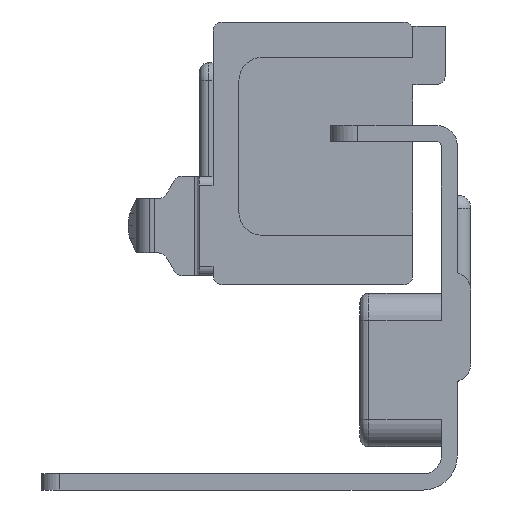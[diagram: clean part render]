
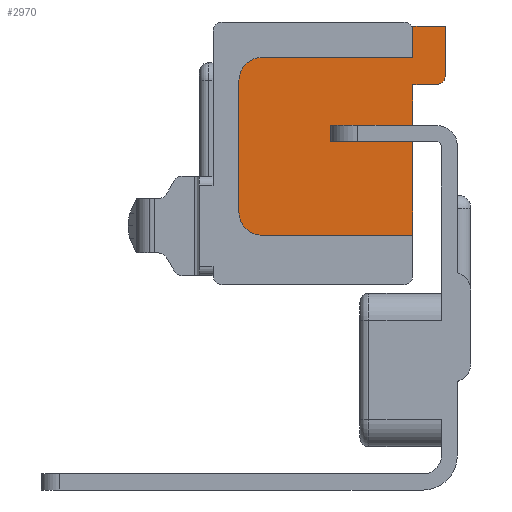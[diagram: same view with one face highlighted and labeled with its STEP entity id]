
A CAD part, left-side view. The second image highlights one B-rep face of the part: STEP entity #2970.
In plain terms, the highlighted planar face has unit normal (-1, 0, 0).
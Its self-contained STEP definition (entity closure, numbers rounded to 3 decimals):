
#12 = DIRECTION ( 'NONE',  ( 0., 0., 1. ) ) ;
#17 = ORIENTED_EDGE ( 'NONE', *, *, #1664, .F. ) ;
#91 = DIRECTION ( 'NONE',  ( -1., 0., 0. ) ) ;
#128 = CARTESIAN_POINT ( 'NONE',  ( -14.3, 4.9, 73.625 ) ) ;
#229 = ORIENTED_EDGE ( 'NONE', *, *, #7047, .F. ) ;
#242 = EDGE_CURVE ( 'NONE', #5560, #2757, #2921, .T. ) ;
#281 = EDGE_CURVE ( 'NONE', #6184, #5635, #4037, .T. ) ;
#302 = LINE ( 'NONE', #128, #3077 ) ;
#326 = VECTOR ( 'NONE', #2813, 1000. ) ;
#347 = CARTESIAN_POINT ( 'NONE',  ( -14.3, 12.15, 75.29 ) ) ;
#492 = ORIENTED_EDGE ( 'NONE', *, *, #4300, .T. ) ;
#541 = VERTEX_POINT ( 'NONE', #1151 ) ;
#565 = EDGE_CURVE ( 'NONE', #1248, #1530, #665, .T. ) ;
#665 = LINE ( 'NONE', #1143, #6144 ) ;
#751 = LINE ( 'NONE', #3242, #6560 ) ;
#812 = LINE ( 'NONE', #4637, #2116 ) ;
#816 = AXIS2_PLACEMENT_3D ( 'NONE', #3397, #91, #3952 ) ;
#849 = LINE ( 'NONE', #1984, #3772 ) ;
#856 = DIRECTION ( 'NONE',  ( 0., 0., 1. ) ) ;
#895 = CARTESIAN_POINT ( 'NONE',  ( -14.3, 4.9, 84.555 ) ) ;
#924 = LINE ( 'NONE', #5928, #6567 ) ;
#951 = CARTESIAN_POINT ( 'NONE',  ( -14.3, 4.9, 88.025 ) ) ;
#1143 = CARTESIAN_POINT ( 'NONE',  ( -14.3, 24.13, 67.425 ) ) ;
#1151 = CARTESIAN_POINT ( 'NONE',  ( -14.3, 4.9, 75.29 ) ) ;
#1161 = DIRECTION ( 'NONE',  ( 0., 0., -1. ) ) ;
#1222 = CARTESIAN_POINT ( 'NONE',  ( -14.3, 1.33, 88.025 ) ) ;
#1248 = VERTEX_POINT ( 'NONE', #2749 ) ;
#1413 = VERTEX_POINT ( 'NONE', #2110 ) ;
#1424 = AXIS2_PLACEMENT_3D ( 'NONE', #2690, #6496, #3237 ) ;
#1460 = CIRCLE ( 'NONE', #5729, 2.5 ) ;
#1495 = EDGE_CURVE ( 'NONE', #6091, #5086, #812, .T. ) ;
#1530 = VERTEX_POINT ( 'NONE', #6171 ) ;
#1645 = DIRECTION ( 'NONE',  ( 0., 0., 1. ) ) ;
#1664 = EDGE_CURVE ( 'NONE', #6610, #541, #3274, .T. ) ;
#1671 = DIRECTION ( 'NONE',  ( 0., 0., -1. ) ) ;
#1702 = CARTESIAN_POINT ( 'NONE',  ( -14.3, 21.63, 84.555 ) ) ;
#1752 = EDGE_LOOP ( 'NONE', ( #3259, #2047, #492, #229, #6231, #5646, #4284, #4047, #1888, #7022, #5515, #3049, #2277, #17, #5069 ) ) ;
#1825 = CARTESIAN_POINT ( 'NONE',  ( -14.3, 4.9, 81.555 ) ) ;
#1888 = ORIENTED_EDGE ( 'NONE', *, *, #3797, .T. ) ;
#1984 = CARTESIAN_POINT ( 'NONE',  ( -14.3, 4.9, 64.925 ) ) ;
#1992 = VERTEX_POINT ( 'NONE', #1825 ) ;
#2038 = EDGE_CURVE ( 'NONE', #6091, #1992, #849, .T. ) ;
#2047 = ORIENTED_EDGE ( 'NONE', *, *, #2038, .T. ) ;
#2110 = CARTESIAN_POINT ( 'NONE',  ( -14.3, 1.33, 82.555 ) ) ;
#2116 = VECTOR ( 'NONE', #5164, 1000. ) ;
#2277 = ORIENTED_EDGE ( 'NONE', *, *, #3081, .F. ) ;
#2513 = LINE ( 'NONE', #3116, #6693 ) ;
#2690 = CARTESIAN_POINT ( 'NONE',  ( -14.3, 2.33, 82.555 ) ) ;
#2749 = CARTESIAN_POINT ( 'NONE',  ( -14.3, 24.13, 82.055 ) ) ;
#2757 = VERTEX_POINT ( 'NONE', #1702 ) ;
#2801 = EDGE_CURVE ( 'NONE', #1413, #6321, #751, .T. ) ;
#2813 = DIRECTION ( 'NONE',  ( 0., -1., 0. ) ) ;
#2921 = LINE ( 'NONE', #3535, #5636 ) ;
#2969 = LINE ( 'NONE', #4595, #4241 ) ;
#2970 = ADVANCED_FACE ( 'NONE', ( #3937 ), #3441, .F. ) ;
#3049 = ORIENTED_EDGE ( 'NONE', *, *, #281, .T. ) ;
#3076 = LINE ( 'NONE', #4652, #4354 ) ;
#3077 = VECTOR ( 'NONE', #1161, 1000. ) ;
#3081 = EDGE_CURVE ( 'NONE', #541, #5635, #302, .T. ) ;
#3089 = CARTESIAN_POINT ( 'NONE',  ( -14.3, 14., 77.06 ) ) ;
#3116 = CARTESIAN_POINT ( 'NONE',  ( -14.3, 1.33, 88.025 ) ) ;
#3173 = DIRECTION ( 'NONE',  ( 0., 0., 1. ) ) ;
#3237 = DIRECTION ( 'NONE',  ( 0., 0., 1. ) ) ;
#3242 = CARTESIAN_POINT ( 'NONE',  ( -14.3, 1.33, 81.555 ) ) ;
#3259 = ORIENTED_EDGE ( 'NONE', *, *, #1495, .F. ) ;
#3274 = LINE ( 'NONE', #347, #326 ) ;
#3322 = DIRECTION ( 'NONE',  ( -1., 0., 0. ) ) ;
#3397 = CARTESIAN_POINT ( 'NONE',  ( -14.3, 21.63, 67.425 ) ) ;
#3441 = PLANE ( 'NONE',  #5409 ) ;
#3515 = CIRCLE ( 'NONE', #816, 2.5 ) ;
#3535 = CARTESIAN_POINT ( 'NONE',  ( -14.3, 4.9, 84.555 ) ) ;
#3731 = CARTESIAN_POINT ( 'NONE',  ( -14.3, 4.9, 77.06 ) ) ;
#3772 = VECTOR ( 'NONE', #1645, 1000. ) ;
#3797 = EDGE_CURVE ( 'NONE', #2757, #1248, #1460, .T. ) ;
#3884 = EDGE_CURVE ( 'NONE', #1530, #6184, #3515, .T. ) ;
#3937 = FACE_OUTER_BOUND ( 'NONE', #1752, .T. ) ;
#3952 = DIRECTION ( 'NONE',  ( 0., 0., 1. ) ) ;
#4014 = CARTESIAN_POINT ( 'NONE',  ( -14.3, 21.53, 73.625 ) ) ;
#4037 = LINE ( 'NONE', #5861, #5295 ) ;
#4047 = ORIENTED_EDGE ( 'NONE', *, *, #242, .T. ) ;
#4224 = VERTEX_POINT ( 'NONE', #951 ) ;
#4241 = VECTOR ( 'NONE', #5143, 1000. ) ;
#4284 = ORIENTED_EDGE ( 'NONE', *, *, #4941, .F. ) ;
#4300 = EDGE_CURVE ( 'NONE', #1992, #6665, #924, .T. ) ;
#4354 = VECTOR ( 'NONE', #856, 1000. ) ;
#4367 = CARTESIAN_POINT ( 'NONE',  ( -14.3, 14., 75.29 ) ) ;
#4484 = DIRECTION ( 'NONE',  ( 1., 0., 0. ) ) ;
#4595 = CARTESIAN_POINT ( 'NONE',  ( -14.3, 4.9, 88.025 ) ) ;
#4637 = CARTESIAN_POINT ( 'NONE',  ( -14.3, 12.42, 77.06 ) ) ;
#4652 = CARTESIAN_POINT ( 'NONE',  ( -14.3, 14., 75.29 ) ) ;
#4766 = DIRECTION ( 'NONE',  ( 0., 1., 0. ) ) ;
#4941 = EDGE_CURVE ( 'NONE', #5560, #4224, #2969, .T. ) ;
#5069 = ORIENTED_EDGE ( 'NONE', *, *, #6979, .T. ) ;
#5086 = VERTEX_POINT ( 'NONE', #3089 ) ;
#5114 = DIRECTION ( 'NONE',  ( 0., -1., 0. ) ) ;
#5122 = CIRCLE ( 'NONE', #1424, 1. ) ;
#5143 = DIRECTION ( 'NONE',  ( 0., 0., 1. ) ) ;
#5164 = DIRECTION ( 'NONE',  ( 0., 1., 0. ) ) ;
#5295 = VECTOR ( 'NONE', #5114, 1000. ) ;
#5409 = AXIS2_PLACEMENT_3D ( 'NONE', #4014, #4484, #5526 ) ;
#5515 = ORIENTED_EDGE ( 'NONE', *, *, #3884, .T. ) ;
#5526 = DIRECTION ( 'NONE',  ( 0., 0., 1. ) ) ;
#5560 = VERTEX_POINT ( 'NONE', #895 ) ;
#5579 = EDGE_CURVE ( 'NONE', #6321, #4224, #2513, .T. ) ;
#5635 = VERTEX_POINT ( 'NONE', #5876 ) ;
#5636 = VECTOR ( 'NONE', #6374, 1000. ) ;
#5646 = ORIENTED_EDGE ( 'NONE', *, *, #5579, .T. ) ;
#5729 = AXIS2_PLACEMENT_3D ( 'NONE', #6574, #3322, #12 ) ;
#5861 = CARTESIAN_POINT ( 'NONE',  ( -14.3, 21.53, 64.925 ) ) ;
#5876 = CARTESIAN_POINT ( 'NONE',  ( -14.3, 4.9, 64.925 ) ) ;
#5928 = CARTESIAN_POINT ( 'NONE',  ( -14.3, 20.06, 81.555 ) ) ;
#6091 = VERTEX_POINT ( 'NONE', #3731 ) ;
#6144 = VECTOR ( 'NONE', #1671, 1000. ) ;
#6171 = CARTESIAN_POINT ( 'NONE',  ( -14.3, 24.13, 67.425 ) ) ;
#6184 = VERTEX_POINT ( 'NONE', #6536 ) ;
#6231 = ORIENTED_EDGE ( 'NONE', *, *, #2801, .T. ) ;
#6321 = VERTEX_POINT ( 'NONE', #1222 ) ;
#6374 = DIRECTION ( 'NONE',  ( 0., 1., 0. ) ) ;
#6496 = DIRECTION ( 'NONE',  ( 1., 0., 0. ) ) ;
#6499 = DIRECTION ( 'NONE',  ( 0., -1., 0. ) ) ;
#6536 = CARTESIAN_POINT ( 'NONE',  ( -14.3, 21.63, 64.925 ) ) ;
#6560 = VECTOR ( 'NONE', #3173, 1000. ) ;
#6566 = CARTESIAN_POINT ( 'NONE',  ( -14.3, 2.33, 81.555 ) ) ;
#6567 = VECTOR ( 'NONE', #6499, 1000. ) ;
#6574 = CARTESIAN_POINT ( 'NONE',  ( -14.3, 21.63, 82.055 ) ) ;
#6610 = VERTEX_POINT ( 'NONE', #4367 ) ;
#6665 = VERTEX_POINT ( 'NONE', #6566 ) ;
#6693 = VECTOR ( 'NONE', #4766, 1000. ) ;
#6979 = EDGE_CURVE ( 'NONE', #6610, #5086, #3076, .T. ) ;
#7022 = ORIENTED_EDGE ( 'NONE', *, *, #565, .T. ) ;
#7047 = EDGE_CURVE ( 'NONE', #1413, #6665, #5122, .T. ) ;
